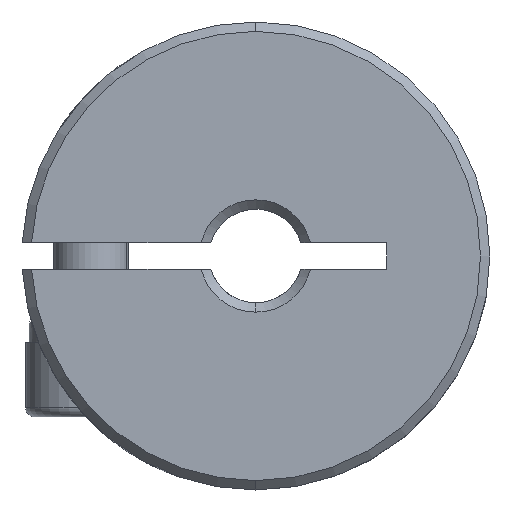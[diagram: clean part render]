
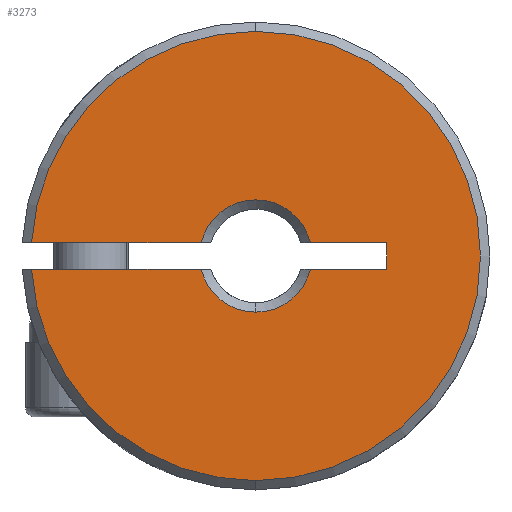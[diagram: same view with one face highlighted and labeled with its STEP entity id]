
A CAD part, front view. The second image highlights one B-rep face of the part: STEP entity #3273.
In plain terms, the highlighted planar face has unit normal (0, -1, 0).
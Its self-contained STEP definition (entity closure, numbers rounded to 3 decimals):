
#67 = DIRECTION ( 'NONE',  ( 0., 0., 1. ) ) ;
#68 = DIRECTION ( 'NONE',  ( 0., 1., 0. ) ) ;
#110 = CIRCLE ( 'NONE', #4722, 3. ) ;
#137 = VERTEX_POINT ( 'NONE', #4651 ) ;
#161 = EDGE_CURVE ( 'NONE', #3997, #4906, #3734, .T. ) ;
#251 = DIRECTION ( 'NONE',  ( 0., -1., 0. ) ) ;
#317 = VECTOR ( 'NONE', #5740, 1000. ) ;
#367 = EDGE_CURVE ( 'NONE', #5680, #2568, #4495, .T. ) ;
#428 = CARTESIAN_POINT ( 'NONE',  ( -12.75, 0.25, -0.7 ) ) ;
#493 = ORIENTED_EDGE ( 'NONE', *, *, #367, .T. ) ;
#560 = EDGE_CURVE ( 'NONE', #2547, #1685, #3302, .T. ) ;
#660 = AXIS2_PLACEMENT_3D ( 'NONE', #1703, #814, #2147 ) ;
#672 = CARTESIAN_POINT ( 'NONE',  ( -2.917, 0.25, 0.7 ) ) ;
#691 = ORIENTED_EDGE ( 'NONE', *, *, #2339, .F. ) ;
#701 = ORIENTED_EDGE ( 'NONE', *, *, #161, .T. ) ;
#814 = DIRECTION ( 'NONE',  ( 0., -1., 0. ) ) ;
#903 = CARTESIAN_POINT ( 'NONE',  ( 0., 0.25, -12. ) ) ;
#965 = CARTESIAN_POINT ( 'NONE',  ( 0., 0.25, -3. ) ) ;
#968 = DIRECTION ( 'NONE',  ( 0., 0., 1. ) ) ;
#969 = EDGE_CURVE ( 'NONE', #4254, #137, #2642, .T. ) ;
#1051 = CARTESIAN_POINT ( 'NONE',  ( 0., 0.25, 0. ) ) ;
#1073 = ORIENTED_EDGE ( 'NONE', *, *, #1247, .F. ) ;
#1124 = EDGE_CURVE ( 'NONE', #4371, #5680, #110, .T. ) ;
#1173 = VECTOR ( 'NONE', #5673, 1000. ) ;
#1218 = AXIS2_PLACEMENT_3D ( 'NONE', #4161, #5019, #3609 ) ;
#1220 = LINE ( 'NONE', #5487, #2345 ) ;
#1247 = EDGE_CURVE ( 'NONE', #2595, #3196, #1220, .T. ) ;
#1385 = AXIS2_PLACEMENT_3D ( 'NONE', #4879, #3863, #67 ) ;
#1464 = PLANE ( 'NONE',  #1385 ) ;
#1474 = CARTESIAN_POINT ( 'NONE',  ( -12.75, 0.25, 0.7 ) ) ;
#1523 = EDGE_LOOP ( 'NONE', ( #691, #2473, #493, #5839, #701, #3962, #4608, #1929, #5192, #5250, #1073 ) ) ;
#1543 = LINE ( 'NONE', #2422, #1173 ) ;
#1614 = AXIS2_PLACEMENT_3D ( 'NONE', #1732, #251, #5050 ) ;
#1633 = EDGE_CURVE ( 'NONE', #2547, #137, #2417, .T. ) ;
#1685 = VERTEX_POINT ( 'NONE', #2941 ) ;
#1703 = CARTESIAN_POINT ( 'NONE',  ( 0., 0.25, 0. ) ) ;
#1732 = CARTESIAN_POINT ( 'NONE',  ( 0., 0.25, 0. ) ) ;
#1929 = ORIENTED_EDGE ( 'NONE', *, *, #1633, .F. ) ;
#1948 = AXIS2_PLACEMENT_3D ( 'NONE', #1051, #68, #3381 ) ;
#2112 = CARTESIAN_POINT ( 'NONE',  ( -2.917, 0.25, -0.7 ) ) ;
#2147 = DIRECTION ( 'NONE',  ( 0., 0., 1. ) ) ;
#2339 = EDGE_CURVE ( 'NONE', #4371, #2595, #4619, .T. ) ;
#2345 = VECTOR ( 'NONE', #4477, 1000. ) ;
#2417 = LINE ( 'NONE', #1474, #317 ) ;
#2422 = CARTESIAN_POINT ( 'NONE',  ( -12.75, 0.25, 0.7 ) ) ;
#2473 = ORIENTED_EDGE ( 'NONE', *, *, #1124, .T. ) ;
#2547 = VERTEX_POINT ( 'NONE', #672 ) ;
#2568 = VERTEX_POINT ( 'NONE', #2112 ) ;
#2592 = EDGE_CURVE ( 'NONE', #4906, #4254, #3053, .T. ) ;
#2595 = VERTEX_POINT ( 'NONE', #4022 ) ;
#2618 = VECTOR ( 'NONE', #5569, 1000. ) ;
#2642 = CIRCLE ( 'NONE', #660, 12. ) ;
#2805 = DIRECTION ( 'NONE',  ( 0., -1., 0. ) ) ;
#2806 = EDGE_CURVE ( 'NONE', #3997, #2568, #4540, .T. ) ;
#2843 = CARTESIAN_POINT ( 'NONE',  ( 0., 0.25, 0. ) ) ;
#2941 = CARTESIAN_POINT ( 'NONE',  ( 2.917, 0.25, 0.7 ) ) ;
#3053 = CIRCLE ( 'NONE', #1614, 12. ) ;
#3170 = EDGE_CURVE ( 'NONE', #3196, #1685, #1543, .T. ) ;
#3196 = VERTEX_POINT ( 'NONE', #4755 ) ;
#3273 = ADVANCED_FACE ( 'NONE', ( #4196 ), #1464, .F. ) ;
#3302 = CIRCLE ( 'NONE', #1218, 3. ) ;
#3381 = DIRECTION ( 'NONE',  ( 0., 0., 1. ) ) ;
#3609 = DIRECTION ( 'NONE',  ( 0., 0., 1. ) ) ;
#3660 = AXIS2_PLACEMENT_3D ( 'NONE', #2843, #2805, #968 ) ;
#3665 = CARTESIAN_POINT ( 'NONE',  ( -12.75, 0.25, -0.7 ) ) ;
#3710 = CARTESIAN_POINT ( 'NONE',  ( 0., 0.25, 0. ) ) ;
#3734 = CIRCLE ( 'NONE', #3660, 12. ) ;
#3863 = DIRECTION ( 'NONE',  ( 0., 1., 0. ) ) ;
#3962 = ORIENTED_EDGE ( 'NONE', *, *, #2592, .T. ) ;
#3972 = CARTESIAN_POINT ( 'NONE',  ( -11.98, 0.25, -0.7 ) ) ;
#3997 = VERTEX_POINT ( 'NONE', #3972 ) ;
#4022 = CARTESIAN_POINT ( 'NONE',  ( 7., 0.25, -0.7 ) ) ;
#4161 = CARTESIAN_POINT ( 'NONE',  ( 0., 0.25, 0. ) ) ;
#4196 = FACE_OUTER_BOUND ( 'NONE', #1523, .T. ) ;
#4200 = DIRECTION ( 'NONE',  ( 0., 1., 0. ) ) ;
#4210 = DIRECTION ( 'NONE',  ( 1., 0., 0. ) ) ;
#4254 = VERTEX_POINT ( 'NONE', #6092 ) ;
#4371 = VERTEX_POINT ( 'NONE', #5292 ) ;
#4477 = DIRECTION ( 'NONE',  ( 0., 0., 1. ) ) ;
#4495 = CIRCLE ( 'NONE', #1948, 3. ) ;
#4540 = LINE ( 'NONE', #428, #4692 ) ;
#4608 = ORIENTED_EDGE ( 'NONE', *, *, #969, .T. ) ;
#4619 = LINE ( 'NONE', #3665, #2618 ) ;
#4651 = CARTESIAN_POINT ( 'NONE',  ( -11.98, 0.25, 0.7 ) ) ;
#4670 = DIRECTION ( 'NONE',  ( 0., 0., 1. ) ) ;
#4692 = VECTOR ( 'NONE', #4210, 1000. ) ;
#4722 = AXIS2_PLACEMENT_3D ( 'NONE', #3710, #4200, #4670 ) ;
#4755 = CARTESIAN_POINT ( 'NONE',  ( 7., 0.25, 0.7 ) ) ;
#4879 = CARTESIAN_POINT ( 'NONE',  ( -500., 0.25, -13.609 ) ) ;
#4906 = VERTEX_POINT ( 'NONE', #903 ) ;
#5019 = DIRECTION ( 'NONE',  ( 0., 1., 0. ) ) ;
#5050 = DIRECTION ( 'NONE',  ( 0., 0., 1. ) ) ;
#5192 = ORIENTED_EDGE ( 'NONE', *, *, #560, .T. ) ;
#5250 = ORIENTED_EDGE ( 'NONE', *, *, #3170, .F. ) ;
#5292 = CARTESIAN_POINT ( 'NONE',  ( 2.917, 0.25, -0.7 ) ) ;
#5487 = CARTESIAN_POINT ( 'NONE',  ( 7., 0.25, 0.7 ) ) ;
#5569 = DIRECTION ( 'NONE',  ( 1., 0., 0. ) ) ;
#5673 = DIRECTION ( 'NONE',  ( -1., 0., 0. ) ) ;
#5680 = VERTEX_POINT ( 'NONE', #965 ) ;
#5740 = DIRECTION ( 'NONE',  ( -1., 0., 0. ) ) ;
#5839 = ORIENTED_EDGE ( 'NONE', *, *, #2806, .F. ) ;
#6092 = CARTESIAN_POINT ( 'NONE',  ( 0., 0.25, 12. ) ) ;
